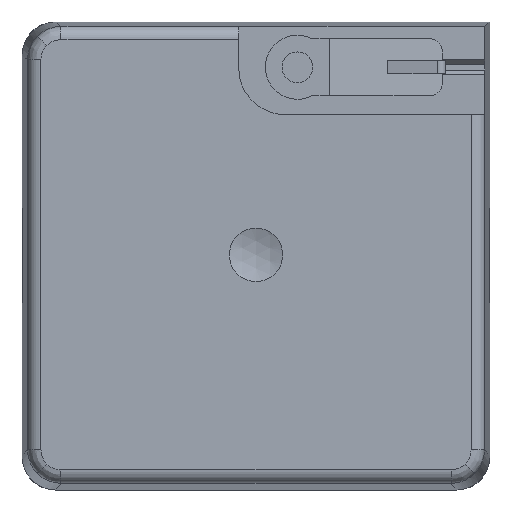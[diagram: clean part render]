
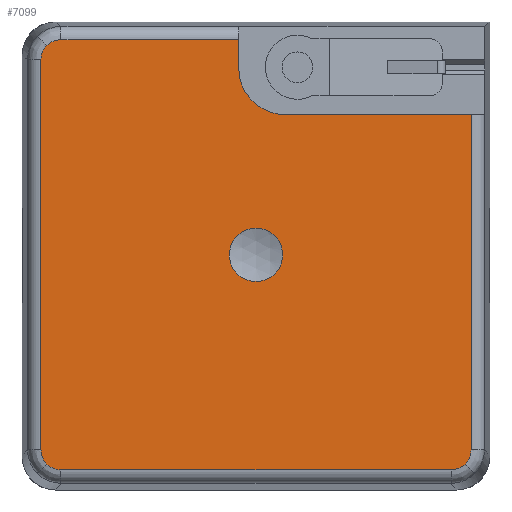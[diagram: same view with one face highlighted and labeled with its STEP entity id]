
A CAD part, top view. The second image highlights one B-rep face of the part: STEP entity #7099.
In plain terms, the highlighted planar face has unit normal (0, 0, 1).
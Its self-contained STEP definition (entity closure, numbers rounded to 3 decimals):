
#69=(
BOUNDED_CURVE()
B_SPLINE_CURVE(3,(#11006,#11007,#11008,#11009,#11010,#11011),
 .UNSPECIFIED.,.F.,.F.)
B_SPLINE_CURVE_WITH_KNOTS((4,2,4),(5.498,5.891,6.283),
 .UNSPECIFIED.)
CURVE()
GEOMETRIC_REPRESENTATION_ITEM()
RATIONAL_B_SPLINE_CURVE((1.,1.,1.,1.,1.,1.))
REPRESENTATION_ITEM('')
);
#70=(
BOUNDED_CURVE()
B_SPLINE_CURVE(3,(#11031,#11032,#11033,#11034,#11035,#11036),
 .UNSPECIFIED.,.F.,.F.)
B_SPLINE_CURVE_WITH_KNOTS((4,2,4),(0.,0.393,0.785),
 .UNSPECIFIED.)
CURVE()
GEOMETRIC_REPRESENTATION_ITEM()
RATIONAL_B_SPLINE_CURVE((1.,1.,1.,1.,1.,1.))
REPRESENTATION_ITEM('')
);
#71=(
BOUNDED_CURVE()
B_SPLINE_CURVE(3,(#11057,#11058,#11059,#11060,#11061,#11062),
 .UNSPECIFIED.,.F.,.F.)
B_SPLINE_CURVE_WITH_KNOTS((4,2,4),(5.498,5.891,6.283),
 .UNSPECIFIED.)
CURVE()
GEOMETRIC_REPRESENTATION_ITEM()
RATIONAL_B_SPLINE_CURVE((1.,1.,1.,1.,1.,1.))
REPRESENTATION_ITEM('')
);
#72=(
BOUNDED_CURVE()
B_SPLINE_CURVE(3,(#11083,#11084,#11085,#11086,#11087,#11088),
 .UNSPECIFIED.,.F.,.F.)
B_SPLINE_CURVE_WITH_KNOTS((4,2,4),(0.,0.393,
0.785),.UNSPECIFIED.)
CURVE()
GEOMETRIC_REPRESENTATION_ITEM()
RATIONAL_B_SPLINE_CURVE((1.,1.,1.,1.,1.,1.))
REPRESENTATION_ITEM('')
);
#73=(
BOUNDED_CURVE()
B_SPLINE_CURVE(3,(#11260,#11261,#11262,#11263,#11264,#11265),
 .UNSPECIFIED.,.F.,.F.)
B_SPLINE_CURVE_WITH_KNOTS((4,2,4),(5.498,5.891,6.283),
 .UNSPECIFIED.)
CURVE()
GEOMETRIC_REPRESENTATION_ITEM()
RATIONAL_B_SPLINE_CURVE((1.,1.,1.,1.,1.,1.))
REPRESENTATION_ITEM('')
);
#74=(
BOUNDED_CURVE()
B_SPLINE_CURVE(3,(#11266,#11267,#11268,#11269,#11270,#11271),
 .UNSPECIFIED.,.F.,.F.)
B_SPLINE_CURVE_WITH_KNOTS((4,2,4),(0.,0.393,
0.785),.UNSPECIFIED.)
CURVE()
GEOMETRIC_REPRESENTATION_ITEM()
RATIONAL_B_SPLINE_CURVE((1.,1.,1.,1.,1.,1.))
REPRESENTATION_ITEM('')
);
#159=FACE_BOUND('',#1205,.T.);
#228=CIRCLE('',#7658,3.5);
#229=CIRCLE('',#7659,2.);
#542=PLANE('',#7657);
#818=FACE_OUTER_BOUND('',#1204,.T.);
#1204=EDGE_LOOP('',(#5330,#5331,#5332,#5333,#5334,#5335,#5336,#5337,#5338,
#5339,#5340,#5341,#5342));
#1205=EDGE_LOOP('',(#5343));
#1712=LINE('',#10984,#2411);
#1716=LINE('',#11098,#2415);
#1719=LINE('',#11104,#2418);
#1730=LINE('',#11133,#2429);
#1734=LINE('',#11256,#2433);
#1735=LINE('',#11258,#2434);
#2411=VECTOR('',#8691,1000.);
#2415=VECTOR('',#8707,1000.);
#2418=VECTOR('',#8714,1000.);
#2429=VECTOR('',#8743,1000.);
#2433=VECTOR('',#8769,1000.);
#2434=VECTOR('',#8770,1000.);
#3124=VERTEX_POINT('',#10980);
#3125=VERTEX_POINT('',#10982);
#3126=VERTEX_POINT('',#11003);
#3127=VERTEX_POINT('',#11005);
#3128=VERTEX_POINT('',#11055);
#3129=VERTEX_POINT('',#11081);
#3132=VERTEX_POINT('',#11096);
#3133=VERTEX_POINT('',#11097);
#3143=VERTEX_POINT('',#11131);
#3150=VERTEX_POINT('',#11253);
#3151=VERTEX_POINT('',#11255);
#3152=VERTEX_POINT('',#11257);
#3153=VERTEX_POINT('',#11259);
#3154=VERTEX_POINT('',#11272);
#3930=EDGE_CURVE('',#3124,#3125,#1712,.T.);
#3932=EDGE_CURVE('',#3127,#3126,#69,.T.);
#3934=EDGE_CURVE('',#3126,#3124,#70,.T.);
#3936=EDGE_CURVE('',#3125,#3128,#71,.T.);
#3938=EDGE_CURVE('',#3128,#3129,#72,.T.);
#3942=EDGE_CURVE('',#3132,#3133,#1716,.T.);
#3946=EDGE_CURVE('',#3129,#3133,#1719,.T.);
#3961=EDGE_CURVE('',#3143,#3127,#1730,.T.);
#3974=EDGE_CURVE('',#3150,#3132,#228,.T.);
#3975=EDGE_CURVE('',#3151,#3150,#1734,.T.);
#3976=EDGE_CURVE('',#3151,#3152,#1735,.T.);
#3977=EDGE_CURVE('',#3152,#3153,#73,.T.);
#3978=EDGE_CURVE('',#3153,#3143,#74,.T.);
#3979=EDGE_CURVE('',#3154,#3154,#229,.T.);
#5330=ORIENTED_EDGE('',*,*,#3936,.T.);
#5331=ORIENTED_EDGE('',*,*,#3938,.T.);
#5332=ORIENTED_EDGE('',*,*,#3946,.T.);
#5333=ORIENTED_EDGE('',*,*,#3942,.F.);
#5334=ORIENTED_EDGE('',*,*,#3974,.F.);
#5335=ORIENTED_EDGE('',*,*,#3975,.F.);
#5336=ORIENTED_EDGE('',*,*,#3976,.T.);
#5337=ORIENTED_EDGE('',*,*,#3977,.T.);
#5338=ORIENTED_EDGE('',*,*,#3978,.T.);
#5339=ORIENTED_EDGE('',*,*,#3961,.T.);
#5340=ORIENTED_EDGE('',*,*,#3932,.T.);
#5341=ORIENTED_EDGE('',*,*,#3934,.T.);
#5342=ORIENTED_EDGE('',*,*,#3930,.T.);
#5343=ORIENTED_EDGE('',*,*,#3979,.F.);
#7099=ADVANCED_FACE('',(#818,#159),#542,.T.);
#7657=AXIS2_PLACEMENT_3D('',#11252,#8765,#8766);
#7658=AXIS2_PLACEMENT_3D('',#11254,#8767,#8768);
#7659=AXIS2_PLACEMENT_3D('',#11273,#8771,#8772);
#8691=DIRECTION('',(0.,1.,0.));
#8707=DIRECTION('',(0.,1.,0.));
#8714=DIRECTION('',(-1.,0.,0.));
#8743=DIRECTION('',(1.,0.,0.));
#8765=DIRECTION('center_axis',(0.,0.,1.));
#8766=DIRECTION('ref_axis',(1.,0.,0.));
#8767=DIRECTION('center_axis',(0.,0.,1.));
#8768=DIRECTION('ref_axis',(1.,0.,0.));
#8769=DIRECTION('',(1.,0.,0.));
#8770=DIRECTION('',(0.,-1.,0.));
#8771=DIRECTION('center_axis',(0.,0.,1.));
#8772=DIRECTION('ref_axis',(1.,0.,0.));
#10980=CARTESIAN_POINT('',(16.108,-14.608,52.05));
#10982=CARTESIAN_POINT('',(16.108,14.608,52.05));
#10984=CARTESIAN_POINT('',(16.108,-17.1,52.05));
#11003=CARTESIAN_POINT('',(15.669,-15.669,52.05));
#11005=CARTESIAN_POINT('',(14.608,-16.108,52.05));
#11006=CARTESIAN_POINT('Ctrl Pts',(14.608,-16.108,52.05));
#11007=CARTESIAN_POINT('Ctrl Pts',(14.805,-16.108,52.05));
#11008=CARTESIAN_POINT('Ctrl Pts',(15.001,-16.069,52.05));
#11009=CARTESIAN_POINT('Ctrl Pts',(15.364,-15.919,52.05));
#11010=CARTESIAN_POINT('Ctrl Pts',(15.53,-15.808,52.05));
#11011=CARTESIAN_POINT('Ctrl Pts',(15.669,-15.669,52.05));
#11031=CARTESIAN_POINT('Ctrl Pts',(15.669,-15.669,52.05));
#11032=CARTESIAN_POINT('Ctrl Pts',(15.808,-15.53,52.05));
#11033=CARTESIAN_POINT('Ctrl Pts',(15.919,-15.364,52.05));
#11034=CARTESIAN_POINT('Ctrl Pts',(16.069,-15.001,52.05));
#11035=CARTESIAN_POINT('Ctrl Pts',(16.108,-14.805,52.05));
#11036=CARTESIAN_POINT('Ctrl Pts',(16.108,-14.608,52.05));
#11055=CARTESIAN_POINT('',(15.669,15.669,52.05));
#11057=CARTESIAN_POINT('Ctrl Pts',(16.108,14.608,52.05));
#11058=CARTESIAN_POINT('Ctrl Pts',(16.108,14.805,52.05));
#11059=CARTESIAN_POINT('Ctrl Pts',(16.069,15.001,52.05));
#11060=CARTESIAN_POINT('Ctrl Pts',(15.919,15.364,52.05));
#11061=CARTESIAN_POINT('Ctrl Pts',(15.808,15.53,52.05));
#11062=CARTESIAN_POINT('Ctrl Pts',(15.669,15.669,52.05));
#11081=CARTESIAN_POINT('',(14.608,16.108,52.05));
#11083=CARTESIAN_POINT('Ctrl Pts',(15.669,15.669,52.05));
#11084=CARTESIAN_POINT('Ctrl Pts',(15.53,15.808,52.05));
#11085=CARTESIAN_POINT('Ctrl Pts',(15.364,15.919,52.05));
#11086=CARTESIAN_POINT('Ctrl Pts',(15.001,16.069,52.05));
#11087=CARTESIAN_POINT('Ctrl Pts',(14.805,16.108,52.05));
#11088=CARTESIAN_POINT('Ctrl Pts',(14.608,16.108,52.05));
#11096=CARTESIAN_POINT('',(-10.5,2.201,52.05));
#11097=CARTESIAN_POINT('',(-10.5,16.108,52.05));
#11098=CARTESIAN_POINT('',(-10.5,2.201,52.05));
#11104=CARTESIAN_POINT('',(17.1,16.108,52.05));
#11131=CARTESIAN_POINT('',(-14.608,-16.108,52.05));
#11133=CARTESIAN_POINT('',(17.1,-16.108,52.05));
#11252=CARTESIAN_POINT('Origin',(17.1,-17.1,52.05));
#11253=CARTESIAN_POINT('',(-14.,-1.299,52.05));
#11254=CARTESIAN_POINT('Origin',(-14.,2.201,52.05));
#11255=CARTESIAN_POINT('',(-16.108,-1.299,52.05));
#11256=CARTESIAN_POINT('',(-17.501,-1.299,52.05));
#11257=CARTESIAN_POINT('',(-16.108,-14.608,52.05));
#11258=CARTESIAN_POINT('',(-16.108,-17.1,52.05));
#11259=CARTESIAN_POINT('',(-15.669,-15.669,52.05));
#11260=CARTESIAN_POINT('Ctrl Pts',(-16.108,-14.608,
52.05));
#11261=CARTESIAN_POINT('Ctrl Pts',(-16.108,-14.805,
52.05));
#11262=CARTESIAN_POINT('Ctrl Pts',(-16.069,-15.001,
52.05));
#11263=CARTESIAN_POINT('Ctrl Pts',(-15.919,-15.364,
52.05));
#11264=CARTESIAN_POINT('Ctrl Pts',(-15.808,-15.53,
52.05));
#11265=CARTESIAN_POINT('Ctrl Pts',(-15.669,-15.669,
52.05));
#11266=CARTESIAN_POINT('Ctrl Pts',(-15.669,-15.669,
52.05));
#11267=CARTESIAN_POINT('Ctrl Pts',(-15.53,-15.808,
52.05));
#11268=CARTESIAN_POINT('Ctrl Pts',(-15.364,-15.919,
52.05));
#11269=CARTESIAN_POINT('Ctrl Pts',(-15.001,-16.069,
52.05));
#11270=CARTESIAN_POINT('Ctrl Pts',(-14.805,-16.108,
52.05));
#11271=CARTESIAN_POINT('Ctrl Pts',(-14.608,-16.108,
52.05));
#11272=CARTESIAN_POINT('',(2.,0.,52.05));
#11273=CARTESIAN_POINT('Origin',(0.,0.,52.05));
